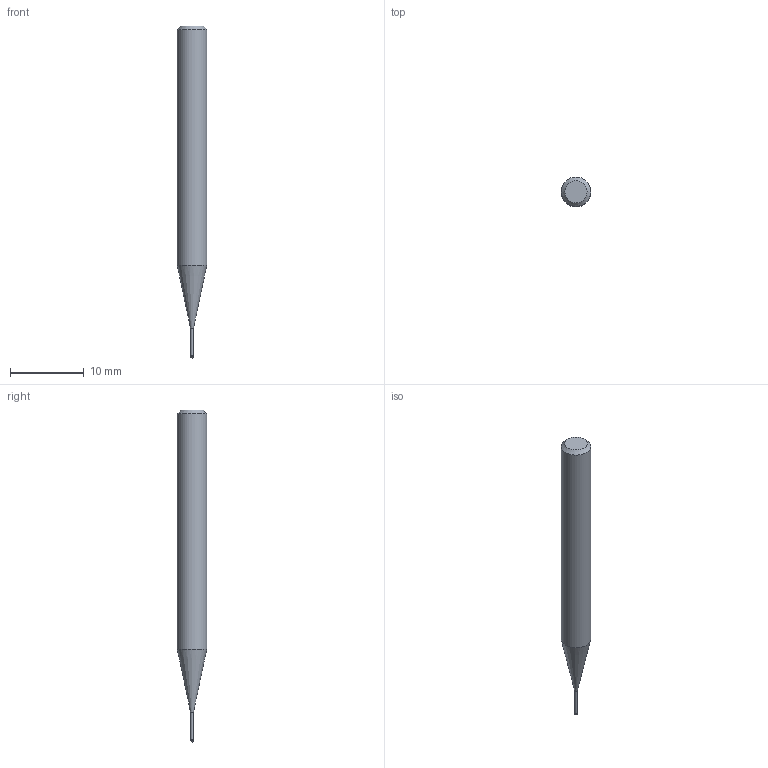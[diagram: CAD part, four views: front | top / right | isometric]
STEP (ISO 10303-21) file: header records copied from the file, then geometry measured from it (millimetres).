
FILE_DESCRIPTION((''),'2;1');
FILE_NAME('C:\Users\nsx150\AppData\Local\Temp\Mastercam 2021\ZXBT0ST9RL\TEMP.step','2021-06-25T11:02:20',(''),(''),'STEP Write','Mastercam 2021 ... CNC Software, Inc.','');
FILE_SCHEMA(('AUTOMOTIVE_DESIGN'));
Length unit declared in the file: millimetre
Products named in the file (1): None
Bounding box: 4 x 4 x 45 mm (x, y, z)
Volume: 446.3 mm3; surface area: 481.3 mm2
Topology: 2 solids, 2 shells, 9 faces, 14 edges, 8 vertices
Faces by surface type: plane 3, cylinder 3, cone 2, sphere 1
Full cylindrical faces by diameter (mm): 0.37 x1, 0.4 x1, 4 x1
Entity records: 211 total; most frequent: DIRECTION 36, CARTESIAN_POINT 25, AXIS2_PLACEMENT_3D 18, ORIENTED_EDGE 14, EDGE_LOOP 14, STYLED_ITEM 12, ADVANCED_FACE 9, FACE_BOUND 8
